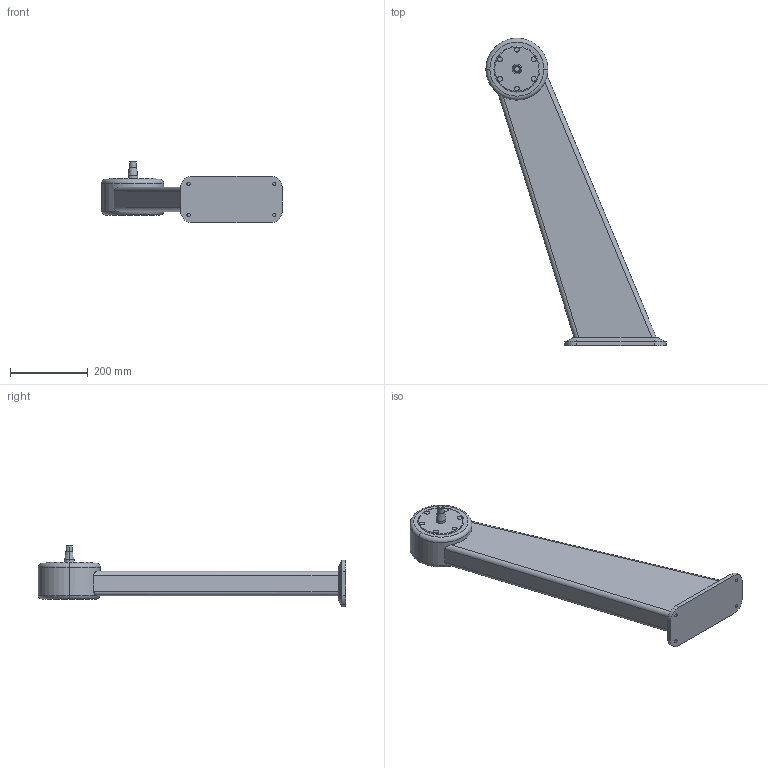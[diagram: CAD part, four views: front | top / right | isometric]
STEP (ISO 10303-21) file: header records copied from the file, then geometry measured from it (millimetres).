
FILE_DESCRIPTION (( 'STEP AP214' ), '1' );
FILE_NAME ('WP700_H710_+20.STEP', '2014-08-14T10:02:28', ( '' ), ( '' ), 'SwSTEP 2.0', 'SolidWorks 2014', '' );
FILE_SCHEMA (( 'AUTOMOTIVE_DESIGN' ));
Length unit declared in the file: millimetre
Products named in the file (1): WP700_H710_+20
Bounding box: 462.42 x 789.5 x 158.3 mm (x, y, z)
Volume: 9275819.2 mm3; surface area: 428565.7 mm2
Topology: 1 solids, 1 shells, 79 faces, 171 edges, 108 vertices
Faces by surface type: cylinder 36, plane 29, cone 8, torus 6
Entity records: 2294 total; most frequent: CARTESIAN_POINT 475, DIRECTION 408, ORIENTED_EDGE 342, EDGE_CURVE 171, AXIS2_PLACEMENT_3D 167, VERTEX_POINT 108, EDGE_LOOP 93, CIRCLE 87
